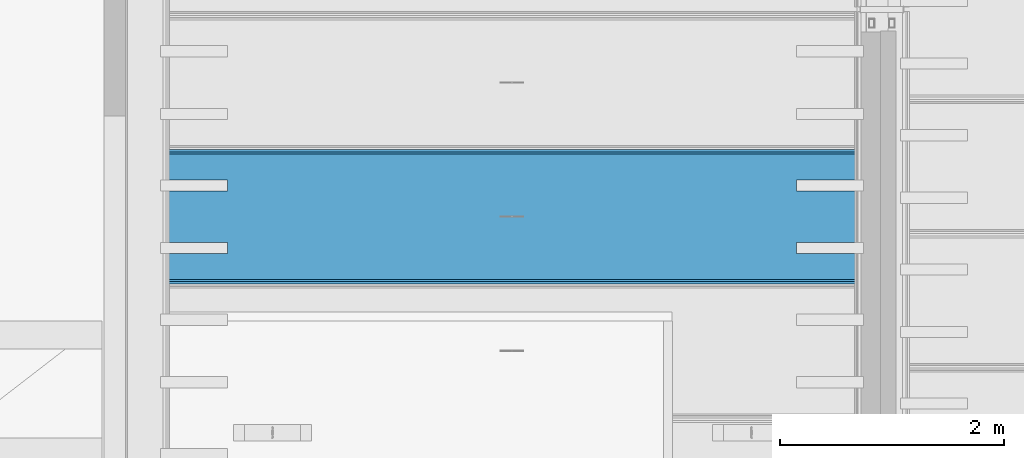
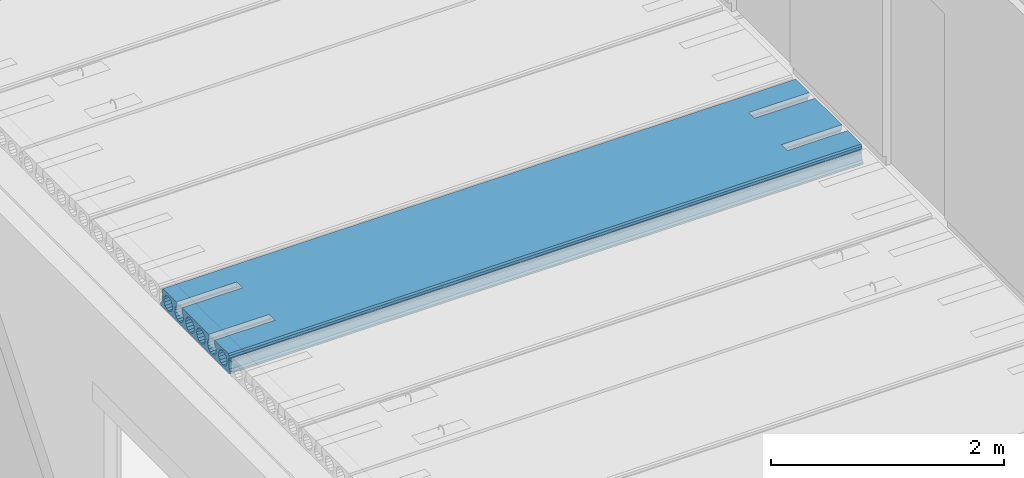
# One storey, part 111 of 230: 1 beam.
"""IFC4X3_ADD2 building model written with IfcOpenShell, lengths in millimetres."""

import ifcopenshell
import ifcopenshell.guid

model = None  # the IFC model being written
_history = None  # IfcOwnerHistory: only IFC2X3 demands one
_inside = {}  # id of a spatial element -> (the spatial element, [elements in it])
_under = {}  # id of a project, library or spatial element -> (it, [spatial elements below it])
_declared = {}  # id of a project -> (the project, [libraries it declares])
_typed = {}  # id of a type object -> (the type object, [elements of that type])
_made_of = {}  # id of a material, layer set ... -> (it, [elements and type objects made of it])


def new_model(schema):
    """Start an empty IFC model of exactly this schema.

    Asked for "IFC4X3", IfcOpenShell would pick the latest addendum, in which some entities
    have other attributes; the version numbers below select the first issue.
    IFC2X3 requires an IfcOwnerHistory on every rooted entity: one is made here for all.
    """
    global model, _history
    if schema == "IFC4X3":
        model = ifcopenshell.file(schema_version=(4, 3, 0, 0))
    else:
        model = ifcopenshell.file(schema=schema)
    _inside.clear()
    _under.clear()
    _declared.clear()
    _typed.clear()
    _made_of.clear()
    _history = None
    if model.schema == "IFC2X3":
        org = make("IfcOrganization", Name="unknown")
        user = make(
            "IfcPersonAndOrganization",
            ThePerson=make("IfcPerson", FamilyName="unknown"),
            TheOrganization=org,
        )
        app = make(
            "IfcApplication",
            ApplicationDeveloper=org,
            Version="unknown",
            ApplicationFullName="unknown",
            ApplicationIdentifier="unknown",
        )
        _history = make(
            "IfcOwnerHistory",
            OwningUser=user,
            OwningApplication=app,
            ChangeAction="ADDED",
            CreationDate=0,
        )
    return model


def make(cls, **values):
    """One entity of the class cls with the attributes given. An attribute that is None is left unset."""
    return model.create_entity(
        cls, **{name: value for name, value in values.items() if value is not None}
    )


def rooted(cls, **values):
    """An entity with a GlobalId (a new one), such as an element, a storey or a relation."""
    return make(cls, GlobalId=ifcopenshell.guid.new(), OwnerHistory=_history, **values)


def si_unit(unit_type, name, prefix=None):
    """IfcSIUnit, for example si_unit("LENGTHUNIT", "METRE", prefix="MILLI")."""
    return make("IfcSIUnit", UnitType=unit_type, Prefix=prefix, Name=name)


def assignment(units):
    """IfcUnitAssignment: the units of a project."""
    return None if units is None else make("IfcUnitAssignment", Units=units)


def point(xyz):
    """IfcCartesianPoint."""
    return None if xyz is None else make("IfcCartesianPoint", Coordinates=xyz)


def direction(xyz):
    """IfcDirection."""
    return None if xyz is None else make("IfcDirection", DirectionRatios=xyz)


def frame(location, z_axis=None, x_axis=None):
    """IfcAxis2Placement3D, a coordinate frame: its origin and axes. An axis left out is left unset."""
    return make(
        "IfcAxis2Placement3D",
        Location=point(location),
        Axis=direction(z_axis),
        RefDirection=direction(x_axis),
    )


def origin_with_axes():
    """The frame at (0, 0, 0) with the z axis (0, 0, 1) and the x axis (1, 0, 0) written out."""
    return frame((0.0, 0.0, 0.0), z_axis=(0.0, 0.0, 1.0), x_axis=(1.0, 0.0, 0.0))


def place(relative_to, where):
    """IfcLocalPlacement: puts the frame where relative to a parent placement (None: the world)."""
    return make(
        "IfcLocalPlacement", PlacementRelTo=relative_to, RelativePlacement=where
    )


def context(
    kind, dimensions, precision=None, world=None, true_north=None, identifier=None
):
    """IfcGeometricRepresentationContext, for example the 3D "Model" context."""
    return make(
        "IfcGeometricRepresentationContext",
        ContextIdentifier=identifier,
        ContextType=kind,
        CoordinateSpaceDimension=dimensions,
        Precision=precision,
        WorldCoordinateSystem=world,
        TrueNorth=true_north,
    )


def subcontext(parent, identifier, kind, view, scale=None):
    """IfcGeometricRepresentationSubContext, for example "Body" below "Model"."""
    return make(
        "IfcGeometricRepresentationSubContext",
        ContextIdentifier=identifier,
        ContextType=kind,
        ParentContext=parent,
        TargetScale=scale,
        TargetView=view,
    )


def project(units=None, contexts=None):
    """IfcProject with its units and contexts."""
    return rooted(
        "IfcProject",
        Name="project",
        RepresentationContexts=contexts,
        UnitsInContext=assignment(units),
    )


def spatial(cls, under=None, at=None, **own):
    """A site, building, storey or space (cls), placed at a placement, below another one or the project."""
    s = rooted(cls, ObjectPlacement=at, **own)
    if under is not None:
        _under.setdefault(under.id(), (under, []))[1].append(s)
    return s


def point_list(points):
    """IfcCartesianPointList2D or 3D."""
    cls = (
        "IfcCartesianPointList2D" if len(points[0]) == 2 else "IfcCartesianPointList3D"
    )
    return make(cls, CoordList=points)


def polygons(points, faces, closed=None, point_numbers=None):
    """IfcPolygonalFaceSet: a face is its outer loop, then its inner loops; points numbered from 1."""
    made = []
    for loops in faces:
        if len(loops) == 1:
            made.append(make("IfcIndexedPolygonalFace", CoordIndex=loops[0]))
        else:
            made.append(
                make(
                    "IfcIndexedPolygonalFaceWithVoids",
                    CoordIndex=loops[0],
                    InnerCoordIndices=loops[1:],
                )
            )
    return make(
        "IfcPolygonalFaceSet",
        Coordinates=point_list(points),
        Closed=closed,
        Faces=made,
        PnIndex=point_numbers,
    )


def shape(context_of_items, identifier, shape_type, items):
    """IfcShapeRepresentation: the items that make up one representation, for example the "Body"."""
    return make(
        "IfcShapeRepresentation",
        ContextOfItems=context_of_items,
        RepresentationIdentifier=identifier,
        RepresentationType=shape_type,
        Items=items,
    )


def made_of(thing, what):
    """Note that an element or type object is made of a material, layer set ...; save() writes the relation."""
    if what is not None:
        _made_of.setdefault(what.id(), (what, []))[1].append(thing)
    return thing


def element(
    cls,
    number,
    at=None,
    inside=None,
    cuts=None,
    type_object=None,
    material=None,
    context=None,
    identifier="Body",
    shape_type=None,
    held_by="IfcProductDefinitionShape",
    body=None,
    shapes=None,
    **own,
):
    """One element of the class cls, such as IfcWall. Its Tag is "e" and its number.

    at: its placement. inside: the storey or other place that contains it. cuts: it is an
    opening in that element (IfcRelVoidsElement). A single representation is given by context,
    identifier, shape_type and body (its items); several are given by shapes. held_by: the class
    of the entity that holds the representations. save() writes the other relations.
    """
    e = rooted(cls, Tag="e%d" % number, ObjectPlacement=at, **own)
    if body is not None:
        shapes = [shape(context, identifier, shape_type, body)]
    if shapes is not None:
        e.Representation = make(held_by, Representations=shapes)
    if inside is not None:
        _inside.setdefault(inside.id(), (inside, []))[1].append(e)
    if cuts is not None:
        rooted(
            "IfcRelVoidsElement", RelatingBuildingElement=cuts, RelatedOpeningElement=e
        )
    if type_object is not None:
        _typed.setdefault(type_object.id(), (type_object, []))[1].append(e)
    return made_of(e, material)


def aggregate(whole, parts):
    """IfcRelAggregates: a whole, such as a stair, and the parts it consists of."""
    return rooted("IfcRelAggregates", RelatingObject=whole, RelatedObjects=parts)


def save(model, path):
    """Write the relations noted so far, then the file.

    IfcRelAggregates (storeys below a building ...), IfcRelContainedInSpatialStructure (elements
    in a storey), IfcRelDefinesByType, IfcRelAssociatesMaterial and IfcRelDeclares: one each for
    every whole, place, type object, material and project.
    """
    for whole, parts in _under.values():
        aggregate(whole, parts)
    for where, things in _inside.values():
        rooted(
            "IfcRelContainedInSpatialStructure",
            RelatedElements=things,
            RelatingStructure=where,
        )
    for kind, things in _typed.values():
        rooted("IfcRelDefinesByType", RelatedObjects=things, RelatingType=kind)
    for what, things in _made_of.values():
        rooted("IfcRelAssociatesMaterial", RelatedObjects=things, RelatingMaterial=what)
    for by, libraries in _declared.values():
        rooted("IfcRelDeclares", RelatingContext=by, RelatedDefinitions=libraries)
    model.write(path)


model = new_model("IFC4X3_ADD2")

# Units and contexts
model_context = context("Model", 3, precision=1e-05, world=origin_with_axes(), true_north=direction((0.0, 1.0)))
body_context = subcontext(model_context, "Body", "Model", "MODEL_VIEW")
ifc_project = project(units=[si_unit("LENGTHUNIT", "METRE", prefix="MILLI"), si_unit("AREAUNIT", "SQUARE_METRE"), si_unit("VOLUMEUNIT", "CUBIC_METRE"), si_unit("PLANEANGLEUNIT", "RADIAN"), si_unit("TIMEUNIT", "SECOND"), si_unit("MASSUNIT", "GRAM")], contexts=[model_context])

# Site, building, storey
site_placement = place(None, origin_with_axes())
site = spatial("IfcSite", under=ifc_project, at=site_placement, Name="Site", CompositionType="ELEMENT")
building_placement = place(site_placement, origin_with_axes())
building = spatial("IfcBuilding", under=site, at=building_placement, Name="IFC Building Story")
storey_placement = place(building_placement, origin_with_axes())
storey = spatial("IfcBuildingStorey", under=building, at=storey_placement, Name="ETAGE 00 (0)", Elevation=0.0)

# Beam
beam_placement = place(storey_placement, origin_with_axes())
element("IfcBeam", 1, at=beam_placement, inside=storey, Name="HOLLOWCORE SLAB", ObjectType="EB_SP200", context=body_context, shape_type="Tessellation", body=[
    polygons([(33516.189, 11299.0009155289, 3999.9999909), (33516.189, 10121.0009155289, 3999.9999909), (33516.189, 10110.0009155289, 4012.9999909), (33516.189, 10110.0009155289, 4029.9999909), (33516.189, 10130.0009155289, 4044.9999909), (33516.189, 10131.45092773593, 4119.9999909), (33516.189, 10138.98353700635, 4128.676139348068), (33516.189, 10141.84084554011, 4139.805000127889), (33516.189, 10139.41955194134, 4151.036789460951), (33516.189, 10132.23089599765, 4159.9999909), (33516.189, 10132.71221169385, 4185.002769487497), (33516.189, 10148.0009155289, 4199.9999909), (33516.189, 10380.0009155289, 4199.9999909), (33516.189, 10380.0009155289, 4155.806158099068), (33516.189, 10375.3214603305, 4152.679446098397), (33516.189, 10359.17189035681, 4128.509906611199), (33516.189, 10353.5009155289, 4099.9999909), (33516.189, 10359.17189035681, 4071.490075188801), (33516.189, 10375.3214603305, 4047.320535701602), (33516.189, 10399.4909998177, 4031.170965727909), (33516.189, 10428.0009155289, 4025.4999909), (33516.189, 10456.5108312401, 4031.170965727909), (33516.189, 10480.6803707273, 4047.320535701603), (33516.189, 10496.82994070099, 4071.490075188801), (33516.189, 10502.5009155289, 4099.9999909), (33516.189, 10496.82994070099, 4128.509906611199), (33516.189, 10480.6803707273, 4152.679446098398), (33516.189, 10480.0009155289, 4153.133443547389), (33516.189, 10480.0009155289, 4199.9999909), (33516.189, 10940.0009155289, 4199.9999909), (33516.189, 10940.0009155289, 4153.133443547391), (33516.189, 10939.3214603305, 4152.679446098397), (33516.189, 10923.17189035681, 4128.509906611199), (33516.189, 10917.5009155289, 4099.9999909), (33516.189, 10923.17189035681, 4071.490075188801), (33516.189, 10939.3214603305, 4047.320535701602), (33516.189, 10963.4909998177, 4031.170965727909), (33516.189, 10992.0009155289, 4025.4999909), (33516.189, 11020.5108312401, 4031.170965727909), (33516.189, 11044.6803707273, 4047.320535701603), (33516.189, 11060.82994070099, 4071.490075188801), (33516.189, 11066.5009155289, 4099.9999909), (33516.189, 11060.82994070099, 4128.509906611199), (33516.189, 11044.6803707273, 4152.679446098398), (33516.189, 11040.0009155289, 4155.806158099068), (33516.189, 11040.0009155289, 4199.9999909), (33516.189, 11272.0009155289, 4199.9999909), (33516.189, 11287.28961936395, 4185.002769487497), (33516.189, 11287.77093506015, 4159.9999909), (33516.189, 11280.58227911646, 4151.036789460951), (33516.189, 11278.16098551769, 4139.805000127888), (33516.189, 11281.01829405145, 4128.676139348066), (33516.189, 11288.55090332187, 4119.9999909), (33516.189, 11290.0009155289, 4044.9999909), (33516.189, 11310.0009155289, 4029.9999909), (33516.189, 11310.0009155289, 4012.9999909), (33516.189, 11232.6803707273, 4152.679446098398), (33516.189, 11208.5108312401, 4168.829016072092), (33516.189, 11180.0009155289, 4174.4999909), (33516.189, 11151.4909998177, 4168.829016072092), (33516.189, 11127.3214603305, 4152.679446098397), (33516.189, 11111.17189035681, 4128.509906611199), (33516.189, 11105.5009155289, 4099.9999909), (33516.189, 11111.17189035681, 4071.490075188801), (33516.189, 11127.3214603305, 4047.320535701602), (33516.189, 11151.4909998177, 4031.170965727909), (33516.189, 11180.0009155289, 4025.4999909), (33516.189, 11208.5108312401, 4031.170965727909), (33516.189, 11232.6803707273, 4047.320535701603), (33516.189, 11248.82994070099, 4071.490075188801), (33516.189, 11254.5009155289, 4099.9999909), (33516.189, 11248.82994070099, 4128.509906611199), (33516.189, 10856.6803707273, 4152.679446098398), (33516.189, 10832.5108312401, 4168.829016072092), (33516.189, 10804.0009155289, 4174.4999909), (33516.189, 10775.4909998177, 4168.829016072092), (33516.189, 10751.3214603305, 4152.679446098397), (33516.189, 10735.17189035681, 4128.509906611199), (33516.189, 10729.5009155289, 4099.9999909), (33516.189, 10735.17189035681, 4071.490075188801), (33516.189, 10751.3214603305, 4047.320535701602), (33516.189, 10775.4909998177, 4031.170965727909), (33516.189, 10804.0009155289, 4025.4999909), (33516.189, 10832.5108312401, 4031.170965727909), (33516.189, 10856.6803707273, 4047.320535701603), (33516.189, 10872.82994070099, 4071.490075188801), (33516.189, 10878.5009155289, 4099.9999909), (33516.189, 10872.82994070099, 4128.509906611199), (33516.189, 10668.6803707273, 4152.679446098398), (33516.189, 10644.5108312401, 4168.829016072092), (33516.189, 10616.0009155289, 4174.4999909), (33516.189, 10587.4909998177, 4168.829016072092), (33516.189, 10563.3214603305, 4152.679446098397), (33516.189, 10547.17189035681, 4128.509906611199), (33516.189, 10541.5009155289, 4099.9999909), (33516.189, 10547.17189035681, 4071.490075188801), (33516.189, 10563.3214603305, 4047.320535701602), (33516.189, 10587.4909998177, 4031.170965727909), (33516.189, 10616.0009155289, 4025.4999909), (33516.189, 10644.5108312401, 4031.170965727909), (33516.189, 10668.6803707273, 4047.320535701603), (33516.189, 10684.82994070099, 4071.490075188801), (33516.189, 10690.5009155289, 4099.9999909), (33516.189, 10684.82994070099, 4128.509906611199), (33516.189, 10292.6803707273, 4152.679446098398), (33516.189, 10268.5108312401, 4168.829016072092), (33516.189, 10240.0009155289, 4174.4999909), (33516.189, 10211.4909998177, 4168.829016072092), (33516.189, 10187.3214603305, 4152.679446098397), (33516.189, 10171.17189035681, 4128.509906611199), (33516.189, 10165.5009155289, 4099.9999909), (33516.189, 10171.17189035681, 4071.490075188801), (33516.189, 10187.3214603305, 4047.320535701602), (33516.189, 10211.4909998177, 4031.170965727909), (33516.189, 10240.0009155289, 4025.4999909), (33516.189, 10268.5108312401, 4031.170965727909), (33516.189, 10292.6803707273, 4047.320535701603), (33516.189, 10308.82994070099, 4071.490075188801), (33516.189, 10314.5009155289, 4099.9999909), (33516.189, 10308.82994070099, 4128.509906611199), (39801.189, 11299.0009155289, 3999.9999909), (39801.189, 11310.0009155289, 4012.9999909), (39801.189, 11310.0009155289, 4029.9999909), (39801.189, 11290.0009155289, 4044.9999909), (39801.189, 11288.55090332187, 4119.9999909), (39801.189, 11281.01829405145, 4128.676139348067), (39801.189, 11278.16098551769, 4139.805000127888), (39801.189, 11280.58227911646, 4151.036789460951), (39801.189, 11287.77093506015, 4159.9999909), (39801.189, 11287.28961936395, 4185.002769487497), (39801.189, 11272.0009155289, 4199.9999909), (39801.189, 11040.0009155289, 4199.9999909), (39801.189, 11040.0009155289, 4155.806158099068), (39801.189, 11044.6803707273, 4152.679446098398), (39801.189, 11060.82994070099, 4128.509906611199), (39801.189, 11066.5009155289, 4099.9999909), (39801.189, 11060.82994070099, 4071.490075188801), (39801.189, 11044.6803707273, 4047.320535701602), (39801.189, 11020.5108312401, 4031.170965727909), (39801.189, 10992.0009155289, 4025.4999909), (39801.189, 10963.4909998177, 4031.170965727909), (39801.189, 10939.3214603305, 4047.320535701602), (39801.189, 10923.17189035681, 4071.490075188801), (39801.189, 10917.5009155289, 4099.9999909), (39801.189, 10923.17189035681, 4128.509906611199), (39801.189, 10939.3214603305, 4152.679446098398), (39801.189, 10940.0009155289, 4153.133443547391), (39801.189, 10940.0009155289, 4199.9999909), (39801.189, 10480.0009155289, 4199.9999909), (39801.189, 10480.0009155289, 4153.133443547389), (39801.189, 10480.6803707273, 4152.679446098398), (39801.189, 10496.82994070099, 4128.509906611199), (39801.189, 10502.5009155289, 4099.9999909), (39801.189, 10496.82994070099, 4071.490075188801), (39801.189, 10480.6803707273, 4047.320535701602), (39801.189, 10456.5108312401, 4031.170965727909), (39801.189, 10428.0009155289, 4025.4999909), (39801.189, 10399.4909998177, 4031.170965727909), (39801.189, 10375.3214603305, 4047.320535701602), (39801.189, 10359.17189035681, 4071.490075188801), (39801.189, 10353.5009155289, 4099.9999909), (39801.189, 10359.17189035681, 4128.509906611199), (39801.189, 10375.3214603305, 4152.679446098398), (39801.189, 10380.0009155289, 4155.806158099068), (39801.189, 10380.0009155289, 4199.9999909), (39801.189, 10148.0009155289, 4199.9999909), (39801.189, 10132.71221169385, 4185.002769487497), (39801.189, 10132.23089599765, 4159.9999909), (39801.189, 10139.41955194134, 4151.036789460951), (39801.189, 10141.84084554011, 4139.805000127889), (39801.189, 10138.98353700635, 4128.676139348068), (39801.189, 10131.45092773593, 4119.9999909), (39801.189, 10130.0009155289, 4044.9999909), (39801.189, 10110.0009155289, 4029.9999909), (39801.189, 10110.0009155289, 4012.9999909), (39801.189, 10121.0009155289, 3999.9999909), (39801.189, 11232.6803707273, 4152.679446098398), (39801.189, 11248.82994070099, 4128.509906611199), (39801.189, 11254.5009155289, 4099.9999909), (39801.189, 11248.82994070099, 4071.490075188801), (39801.189, 11232.6803707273, 4047.320535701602), (39801.189, 11208.5108312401, 4031.170965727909), (39801.189, 11180.0009155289, 4025.4999909), (39801.189, 11151.4909998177, 4031.170965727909), (39801.189, 11127.3214603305, 4047.320535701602), (39801.189, 11111.17189035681, 4071.490075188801), (39801.189, 11105.5009155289, 4099.9999909), (39801.189, 11111.17189035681, 4128.509906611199), (39801.189, 11127.3214603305, 4152.679446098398), (39801.189, 11151.4909998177, 4168.829016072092), (39801.189, 11180.0009155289, 4174.4999909), (39801.189, 11208.5108312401, 4168.829016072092), (39801.189, 10856.6803707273, 4152.679446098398), (39801.189, 10872.82994070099, 4128.509906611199), (39801.189, 10878.5009155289, 4099.9999909), (39801.189, 10872.82994070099, 4071.490075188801), (39801.189, 10856.6803707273, 4047.320535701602), (39801.189, 10832.5108312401, 4031.170965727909), (39801.189, 10804.0009155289, 4025.4999909), (39801.189, 10775.4909998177, 4031.170965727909), (39801.189, 10751.3214603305, 4047.320535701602), (39801.189, 10735.17189035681, 4071.490075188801), (39801.189, 10729.5009155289, 4099.9999909), (39801.189, 10735.17189035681, 4128.509906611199), (39801.189, 10751.3214603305, 4152.679446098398), (39801.189, 10775.4909998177, 4168.829016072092), (39801.189, 10804.0009155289, 4174.4999909), (39801.189, 10832.5108312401, 4168.829016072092), (39801.189, 10668.6803707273, 4152.679446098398), (39801.189, 10684.82994070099, 4128.509906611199), (39801.189, 10690.5009155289, 4099.9999909), (39801.189, 10684.82994070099, 4071.490075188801), (39801.189, 10668.6803707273, 4047.320535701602), (39801.189, 10644.5108312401, 4031.170965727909), (39801.189, 10616.0009155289, 4025.4999909), (39801.189, 10587.4909998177, 4031.170965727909), (39801.189, 10563.3214603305, 4047.320535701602), (39801.189, 10547.17189035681, 4071.490075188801), (39801.189, 10541.5009155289, 4099.9999909), (39801.189, 10547.17189035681, 4128.509906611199), (39801.189, 10563.3214603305, 4152.679446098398), (39801.189, 10587.4909998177, 4168.829016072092), (39801.189, 10616.0009155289, 4174.4999909), (39801.189, 10644.5108312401, 4168.829016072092), (39801.189, 10292.6803707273, 4152.679446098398), (39801.189, 10308.82994070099, 4128.509906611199), (39801.189, 10314.5009155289, 4099.9999909), (39801.189, 10308.82994070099, 4071.490075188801), (39801.189, 10292.6803707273, 4047.320535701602), (39801.189, 10268.5108312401, 4031.170965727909), (39801.189, 10240.0009155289, 4025.4999909), (39801.189, 10211.4909998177, 4031.170965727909), (39801.189, 10187.3214603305, 4047.320535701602), (39801.189, 10171.17189035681, 4071.490075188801), (39801.189, 10165.5009155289, 4099.9999909), (39801.189, 10171.17189035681, 4128.509906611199), (39801.189, 10187.3214603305, 4152.679446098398), (39801.189, 10211.4909998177, 4168.829016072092), (39801.189, 10240.0009155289, 4174.4999909), (39801.189, 10268.5108312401, 4168.829016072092), (34116.189, 11040.0009155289, 4199.9999909), (34116.189, 10940.0009155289, 4199.9999909), (34116.189, 10480.0009155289, 4199.9999909), (34116.189, 10380.0009155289, 4199.9999909), (39201.189, 10380.0009155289, 4199.9999909), (39201.189, 10480.0009155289, 4199.9999909), (39201.189, 10940.0009155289, 4199.9999909), (39201.189, 11040.0009155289, 4199.9999909), (39201.189, 11040.0009155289, 4155.806158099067), (39201.189, 11020.5108312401, 4168.829016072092), (34116.189, 11020.5108312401, 4168.829016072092), (34116.189, 11040.0009155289, 4155.806158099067), (39201.189, 10992.0009155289, 4174.4999909), (34116.189, 10992.0009155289, 4174.4999909), (39201.189, 10963.4909998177, 4168.829016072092), (34116.189, 10963.4909998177, 4168.829016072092), (34116.189, 10940.0009155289, 4153.133443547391), (39201.189, 10940.0009155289, 4153.133443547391), (39201.189, 10480.0009155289, 4153.133443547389), (39201.189, 10456.5108312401, 4168.829016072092), (34116.189, 10456.5108312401, 4168.829016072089), (34116.189, 10480.0009155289, 4153.133443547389), (39201.189, 10428.0009155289, 4174.4999909), (34116.189, 10428.0009155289, 4174.4999909), (39201.189, 10399.4909998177, 4168.829016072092), (34116.189, 10399.4909998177, 4168.829016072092), (34116.189, 10380.0009155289, 4155.806158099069), (39201.189, 10380.0009155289, 4155.806158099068), (34116.189, 10940.0009155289, 4199.999996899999), (34116.189, 11040.0009155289, 4199.999996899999), (39201.189, 11040.0009155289, 4199.999996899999), (39201.189, 10940.0009155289, 4199.999996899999), (39201.189, 10480.0009155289, 4199.999996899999), (39201.189, 10380.0009155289, 4199.999996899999), (34116.189, 10380.0009155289, 4199.999996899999), (34116.189, 10480.0009155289, 4199.999996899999)], [[[27, 28, 29]], [[92, 93, 26]], [[92, 26, 27]], [[92, 27, 29]], [[29, 91, 92]], [[91, 29, 30]], [[30, 90, 91]], [[30, 89, 90]], [[94, 95, 25]], [[94, 25, 26]], [[26, 93, 94]], [[96, 97, 24]], [[24, 25, 95]], [[24, 95, 96]], [[97, 23, 24]], [[76, 77, 104]], [[76, 104, 89]], [[89, 75, 76]], [[75, 89, 30]], [[30, 74, 75]], [[30, 73, 74]], [[78, 79, 103]], [[78, 103, 104]], [[104, 77, 78]], [[80, 81, 102]], [[102, 103, 79]], [[102, 79, 80]], [[81, 101, 102]], [[88, 73, 30]], [[88, 30, 31]], [[33, 34, 87]], [[33, 87, 88]], [[88, 32, 33]], [[88, 31, 32]], [[35, 36, 86]], [[86, 87, 34]], [[86, 34, 35]], [[36, 85, 86]], [[44, 45, 46]], [[60, 61, 43]], [[60, 43, 44]], [[60, 44, 46]], [[46, 59, 60]], [[46, 47, 59]], [[47, 58, 59]], [[47, 57, 58]], [[62, 63, 42]], [[62, 42, 43]], [[43, 61, 62]], [[64, 65, 41]], [[41, 42, 63]], [[41, 63, 64]], [[50, 51, 72]], [[50, 72, 57]], [[57, 47, 48]], [[57, 48, 49]], [[57, 49, 50]], [[52, 53, 71]], [[52, 71, 72]], [[72, 51, 52]], [[53, 54, 70]], [[53, 70, 71]], [[54, 55, 56]], [[54, 56, 1]], [[1, 69, 70]], [[1, 70, 54]], [[1, 68, 69]], [[1, 67, 68]], [[1, 66, 67]], [[1, 40, 66]], [[40, 41, 65]], [[40, 65, 66]], [[1, 39, 40]], [[1, 38, 39]], [[1, 84, 38]], [[84, 37, 38]], [[84, 85, 36]], [[84, 36, 37]], [[1, 83, 84]], [[1, 100, 83]], [[100, 82, 83]], [[100, 101, 81]], [[100, 81, 82]], [[1, 99, 100]], [[1, 22, 99]], [[22, 98, 99]], [[22, 23, 97]], [[22, 97, 98]], [[1, 21, 22]], [[1, 2, 21]], [[2, 20, 21]], [[2, 19, 20]], [[9, 10, 11]], [[9, 11, 12]], [[109, 110, 8]], [[109, 8, 9]], [[9, 12, 108]], [[9, 108, 109]], [[12, 107, 108]], [[107, 12, 13]], [[13, 106, 107]], [[13, 105, 106]], [[110, 7, 8]], [[112, 113, 5]], [[5, 6, 111]], [[5, 111, 112]], [[6, 7, 110]], [[6, 110, 111]], [[116, 117, 18]], [[116, 18, 19]], [[19, 115, 116]], [[19, 2, 115]], [[2, 114, 115]], [[2, 5, 113]], [[2, 113, 114]], [[2, 3, 4]], [[2, 4, 5]], [[118, 119, 17]], [[118, 17, 18]], [[18, 117, 118]], [[120, 105, 16]], [[16, 17, 119]], [[16, 119, 120]], [[105, 13, 15]], [[105, 15, 16]], [[13, 14, 15]], [[173, 174, 175]], [[173, 175, 176]], [[128, 129, 130]], [[128, 130, 131]], [[128, 131, 177]], [[177, 178, 127]], [[177, 127, 128]], [[178, 126, 127]], [[180, 181, 124]], [[124, 125, 179]], [[124, 179, 180]], [[125, 126, 178]], [[125, 178, 179]], [[192, 177, 131]], [[131, 191, 192]], [[191, 131, 132]], [[132, 190, 191]], [[132, 189, 190]], [[132, 133, 188]], [[132, 188, 189]], [[135, 136, 187]], [[135, 187, 188]], [[188, 134, 135]], [[188, 133, 134]], [[137, 138, 186]], [[186, 187, 136]], [[186, 136, 137]], [[138, 139, 185]], [[138, 185, 186]], [[139, 184, 185]], [[146, 147, 148]], [[148, 193, 145]], [[148, 145, 146]], [[194, 195, 144]], [[194, 144, 145]], [[145, 193, 194]], [[196, 197, 143]], [[143, 144, 195]], [[143, 195, 196]], [[197, 142, 143]], [[208, 193, 148]], [[148, 207, 208]], [[148, 209, 207]], [[209, 206, 207]], [[209, 205, 206]], [[209, 204, 205]], [[210, 211, 203]], [[210, 203, 204]], [[204, 209, 210]], [[212, 213, 202]], [[202, 203, 211]], [[202, 211, 212]], [[213, 201, 202]], [[224, 209, 148]], [[148, 223, 224]], [[148, 149, 223]], [[149, 222, 223]], [[149, 221, 222]], [[149, 150, 220]], [[149, 220, 221]], [[152, 153, 219]], [[152, 219, 220]], [[220, 151, 152]], [[220, 150, 151]], [[154, 155, 218]], [[218, 219, 153]], [[218, 153, 154]], [[155, 217, 218]], [[163, 164, 165]], [[165, 225, 162]], [[165, 162, 163]], [[226, 227, 161]], [[226, 161, 162]], [[162, 225, 226]], [[228, 229, 160]], [[160, 161, 227]], [[160, 227, 228]], [[235, 236, 171]], [[235, 171, 172]], [[172, 173, 234]], [[172, 234, 235]], [[173, 176, 233]], [[173, 233, 234]], [[176, 232, 233]], [[176, 231, 232]], [[176, 230, 231]], [[176, 159, 230]], [[159, 160, 229]], [[159, 229, 230]], [[176, 158, 159]], [[176, 157, 158]], [[176, 216, 157]], [[216, 156, 157]], [[216, 217, 155]], [[216, 155, 156]], [[176, 215, 216]], [[176, 200, 215]], [[200, 214, 215]], [[200, 201, 213]], [[200, 213, 214]], [[176, 199, 200]], [[176, 141, 199]], [[141, 198, 199]], [[141, 142, 197]], [[141, 197, 198]], [[176, 140, 141]], [[176, 183, 140]], [[183, 184, 139]], [[183, 139, 140]], [[176, 121, 183]], [[121, 182, 183]], [[121, 124, 181]], [[121, 181, 182]], [[121, 122, 123]], [[121, 123, 124]], [[236, 170, 171]], [[240, 225, 165]], [[165, 239, 240]], [[165, 166, 239]], [[166, 238, 239]], [[166, 169, 237]], [[166, 237, 238]], [[169, 170, 236]], [[169, 236, 237]], [[166, 167, 168]], [[166, 168, 169]], [[2, 1, 121, 176]], [[3, 2, 176, 175]], [[4, 3, 175, 174]], [[5, 4, 174, 173]], [[6, 5, 173, 172]], [[7, 6, 172, 171]], [[8, 7, 171, 170]], [[9, 8, 170, 169]], [[10, 9, 169, 168]], [[11, 10, 168, 167]], [[12, 11, 167, 166]], [[242, 30, 29]], [[242, 29, 243]], [[244, 13, 12]], [[244, 12, 166]], [[166, 243, 244]], [[242, 243, 166]], [[166, 241, 242]], [[246, 149, 148]], [[246, 148, 247]], [[248, 132, 131]], [[248, 131, 47]], [[47, 247, 248]], [[246, 247, 47]], [[47, 245, 246]], [[47, 241, 166]], [[47, 166, 245]], [[166, 165, 245]], [[47, 46, 241]], [[48, 47, 131, 130]], [[49, 48, 130, 129]], [[50, 49, 129, 128]], [[51, 50, 128, 127]], [[52, 51, 127, 126]], [[53, 52, 126, 125]], [[54, 53, 125, 124]], [[55, 54, 124, 123]], [[56, 55, 123, 122]], [[1, 56, 122, 121]], [[58, 57, 177, 192]], [[59, 58, 192, 191]], [[60, 59, 191, 190]], [[61, 60, 190, 189]], [[62, 61, 189, 188]], [[63, 62, 188, 187]], [[64, 63, 187, 186]], [[65, 64, 186, 185]], [[66, 65, 185, 184]], [[67, 66, 184, 183]], [[68, 67, 183, 182]], [[69, 68, 182, 181]], [[70, 69, 181, 180]], [[71, 70, 180, 179]], [[72, 71, 179, 178]], [[57, 72, 178, 177]], [[252, 45, 44]], [[252, 44, 249]], [[249, 250, 251]], [[249, 251, 252]], [[44, 134, 249]], [[134, 133, 249]], [[251, 250, 253, 254]], [[254, 253, 255, 256]], [[258, 147, 146]], [[258, 146, 257]], [[257, 256, 255]], [[257, 255, 258]], [[146, 32, 257]], [[32, 31, 257]], [[33, 32, 146, 145]], [[34, 33, 145, 144]], [[35, 34, 144, 143]], [[36, 35, 143, 142]], [[37, 36, 142, 141]], [[38, 37, 141, 140]], [[39, 38, 140, 139]], [[40, 39, 139, 138]], [[41, 40, 138, 137]], [[42, 41, 137, 136]], [[43, 42, 136, 135]], [[44, 43, 135, 134]], [[74, 73, 193, 208]], [[75, 74, 208, 207]], [[76, 75, 207, 206]], [[77, 76, 206, 205]], [[78, 77, 205, 204]], [[79, 78, 204, 203]], [[80, 79, 203, 202]], [[81, 80, 202, 201]], [[82, 81, 201, 200]], [[83, 82, 200, 199]], [[84, 83, 199, 198]], [[85, 84, 198, 197]], [[86, 85, 197, 196]], [[87, 86, 196, 195]], [[88, 87, 195, 194]], [[73, 88, 194, 193]], [[90, 89, 209, 224]], [[91, 90, 224, 223]], [[92, 91, 223, 222]], [[93, 92, 222, 221]], [[94, 93, 221, 220]], [[95, 94, 220, 219]], [[96, 95, 219, 218]], [[97, 96, 218, 217]], [[98, 97, 217, 216]], [[99, 98, 216, 215]], [[100, 99, 215, 214]], [[101, 100, 214, 213]], [[102, 101, 213, 212]], [[103, 102, 212, 211]], [[104, 103, 211, 210]], [[89, 104, 210, 209]], [[262, 28, 27]], [[262, 27, 259]], [[259, 260, 261]], [[259, 261, 262]], [[27, 151, 259]], [[151, 150, 259]], [[260, 263, 264, 261]], [[263, 265, 266, 264]], [[268, 164, 163]], [[268, 163, 267]], [[267, 266, 265]], [[267, 265, 268]], [[163, 15, 267]], [[15, 14, 267]], [[16, 15, 163, 162]], [[17, 16, 162, 161]], [[18, 17, 161, 160]], [[19, 18, 160, 159]], [[20, 19, 159, 158]], [[21, 20, 158, 157]], [[22, 21, 157, 156]], [[23, 22, 156, 155]], [[24, 23, 155, 154]], [[25, 24, 154, 153]], [[26, 25, 153, 152]], [[27, 26, 152, 151]], [[106, 105, 225, 240]], [[107, 106, 240, 239]], [[108, 107, 239, 238]], [[109, 108, 238, 237]], [[110, 109, 237, 236]], [[111, 110, 236, 235]], [[112, 111, 235, 234]], [[113, 112, 234, 233]], [[114, 113, 233, 232]], [[115, 114, 232, 231]], [[116, 115, 231, 230]], [[117, 116, 230, 229]], [[118, 117, 229, 228]], [[119, 118, 228, 227]], [[120, 119, 227, 226]], [[105, 120, 226, 225]], [[46, 45, 252, 241]], [[31, 30, 269, 257]], [[256, 257, 242]], [[242, 270, 254]], [[242, 254, 256]], [[270, 251, 254]], [[270, 252, 251]], [[148, 147, 258, 247]], [[133, 132, 271, 249]], [[250, 249, 248]], [[248, 253, 250]], [[248, 272, 255]], [[248, 255, 253]], [[272, 258, 255]], [[165, 164, 268, 245]], [[150, 149, 273, 259]], [[260, 259, 246]], [[246, 274, 263]], [[246, 263, 260]], [[274, 265, 263]], [[274, 268, 265]], [[262, 243, 29, 28]], [[275, 267, 14, 13]], [[266, 267, 244]], [[244, 264, 266]], [[244, 276, 261]], [[244, 261, 264]], [[276, 262, 261]]]),
])

save(model, "model.ifc")
